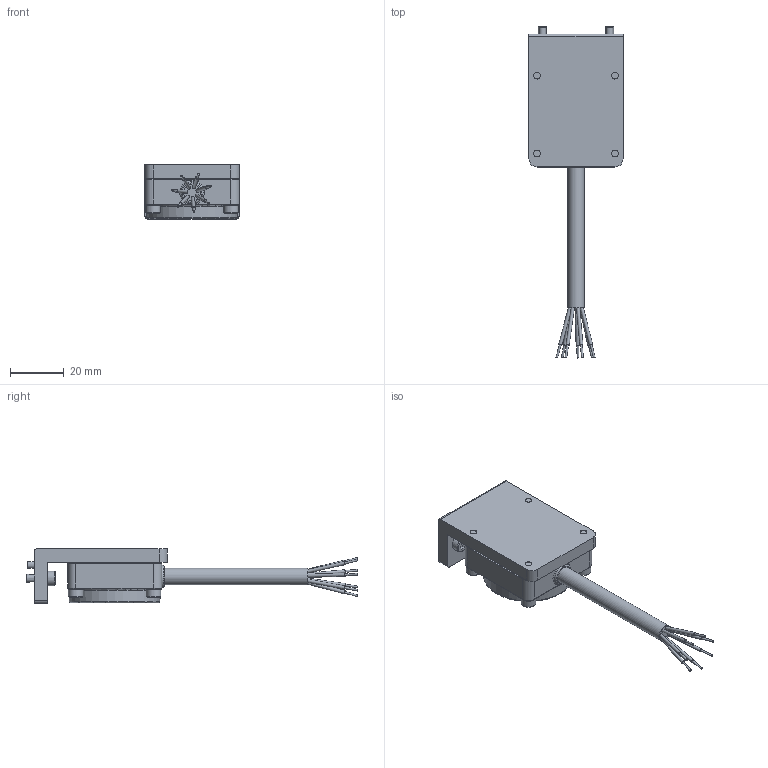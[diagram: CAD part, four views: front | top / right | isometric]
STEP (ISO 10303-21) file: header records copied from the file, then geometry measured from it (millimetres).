
FILE_DESCRIPTION(('STEP AP214'),'1');
FILE_NAME('KHB-7RS-NN4,NP4_ver1.stp','2026-04-24T02:45:44',(' '),(' '),'Spatial InterOp 3D',' ',' ');
FILE_SCHEMA(('AUTOMOTIVE_DESIGN { 1 0 10303 214 1 1 1 1 }'));
Length unit declared in the file: millimetre
Products named in the file (1): KHB-7RS-NN4,NP4
Bounding box: 35 x 123.57 x 20.2 mm (x, y, z)
Volume: 28946.3 mm3; surface area: 12737.5 mm2
Topology: 1 solids, 5 shells, 258 faces, 589 edges, 388 vertices
Faces by surface type: plane 116, cylinder 79, bspline 21, torus 21, cone 21
Full cylindrical faces by diameter (mm): 0.7 x7, 1.2 x7, 2.5 x8, 3 x4, 3.3 x4, 3.5 x4, 5 x4, 5.41 x6, 5.5 x4, 6.3 x1
Entity records: 9154 total; most frequent: CARTESIAN_POINT 1627, DIRECTION 1175, ORIENTED_EDGE 970, AXIS2_PLACEMENT_3D 488, EDGE_CURVE 485, EDGE_LOOP 397, VERTEX_POINT 358, FACE_OUTER_BOUND 311
